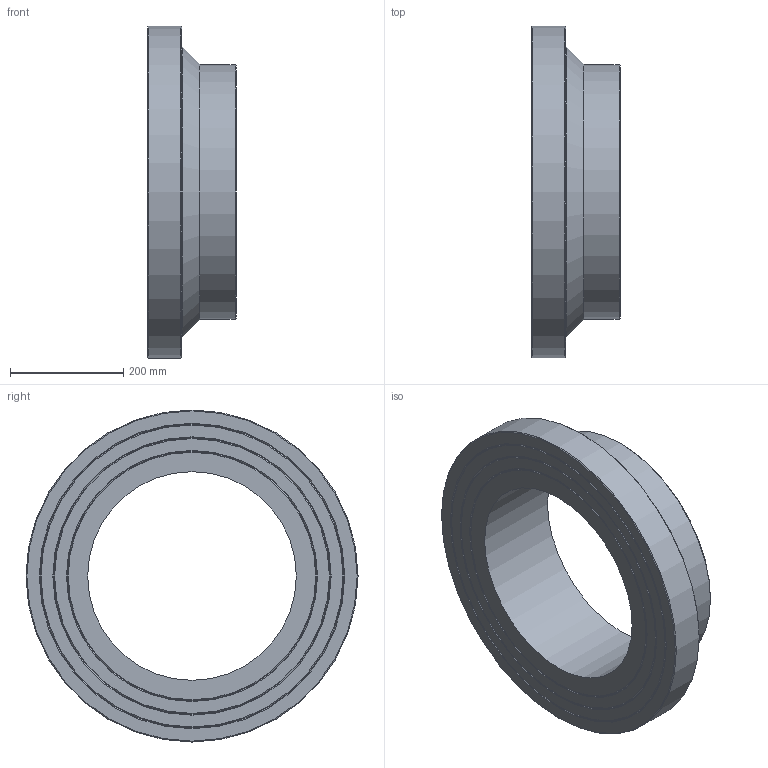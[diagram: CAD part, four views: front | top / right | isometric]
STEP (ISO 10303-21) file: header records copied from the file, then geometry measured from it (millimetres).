
FILE_DESCRIPTION(/* description */ ('Unknown'),/* implementation_level */ '2;1');
FILE_NAME(/* name */ 'CCP450C',/* time_stamp */ '2022-04-04T15:22:02+02:00',/* author */ ('Unknown'),/* organization */ ('Unknown'),/* preprocessor_version */ 'ST-DEVELOPER v18.1',/* originating_system */ 'Solid Edge',/* authorisation */ 'Unknown');
FILE_SCHEMA (('AUTOMOTIVE_DESIGN {1 0 10303 214 3 1 1}'));
Length unit declared in the file: millimetre
Products named in the file (1): CCP450C
Bounding box: 157 x 586 x 586 mm (x, y, z)
Volume: 15635649.9 mm3; surface area: 728056.4 mm2
Topology: 1 solids, 1 shells, 20 faces, 35 edges, 21 vertices
Faces by surface type: cone 10, plane 6, cylinder 3, torus 1
Full cylindrical faces by diameter (mm): 368.2 x1, 450 x1, 586 x1
Entity records: 438 total; most frequent: DIRECTION 82, CARTESIAN_POINT 61, AXIS2_PLACEMENT_3D 41, ORIENTED_EDGE 40, EDGE_LOOP 40, FACE_BOUND 40, EDGE_CURVE 20, VERTEX_POINT 20
